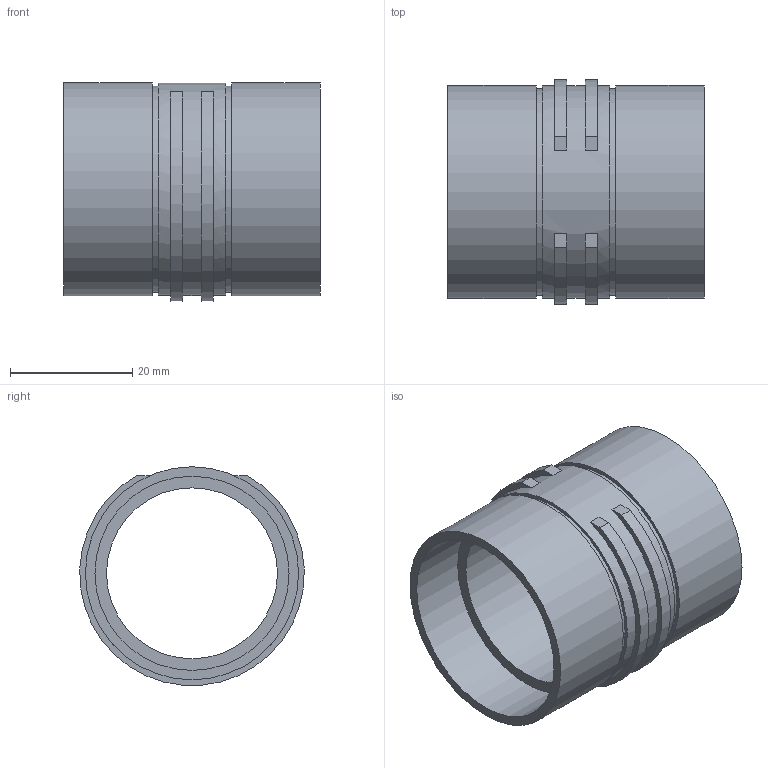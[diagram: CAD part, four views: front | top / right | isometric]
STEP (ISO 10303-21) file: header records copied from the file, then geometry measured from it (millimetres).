
FILE_DESCRIPTION( ( 'Unknown' ), '1' );
FILE_NAME( '//Sv02/01_社内情報/103_技術部/012_図面/図面/電子カタログ-3D/電子カタログ-3D元ファイル(par)/70_3D電子カタログ/01_U/インチ/70-31.8U-BH.stp', 'Unknown', ( 'Unknown' ), ( 'Unknown' ), 'XStep 1.0', 'Unknown', ' ' );
FILE_SCHEMA( ( 'CONFIG_CONTROL_DESIGN' ) );
Length unit declared in the file: millimetre
Products named in the file (1): 1
Bounding box: 42 x 36.77 x 35.78 mm (x, y, z)
Volume: 11124.8 mm3; surface area: 9841.2 mm2
Topology: 1 solids, 1 shells, 26 faces, 48 edges, 32 vertices
Faces by surface type: plane 16, cylinder 10
Full cylindrical faces by diameter (mm): 28 x1, 31.8 x2, 33.75 x2, 34.8 x1, 34.9 x2
Entity records: 664 total; most frequent: DIRECTION 118, CARTESIAN_POINT 99, ORIENTED_EDGE 80, AXIS2_PLACEMENT_3D 51, EDGE_LOOP 44, EDGE_CURVE 40, FACE_OUTER_BOUND 34, VERTEX_POINT 32
